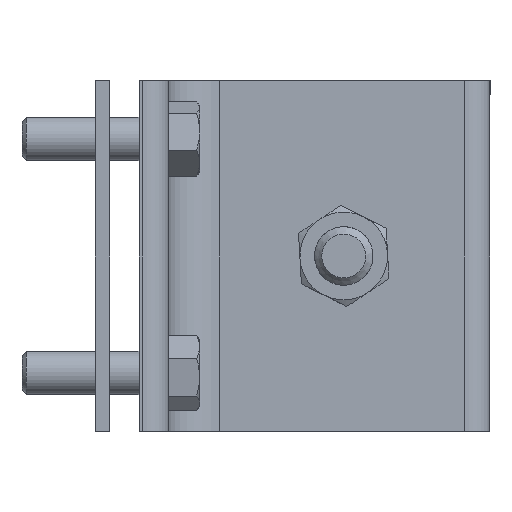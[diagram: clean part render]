
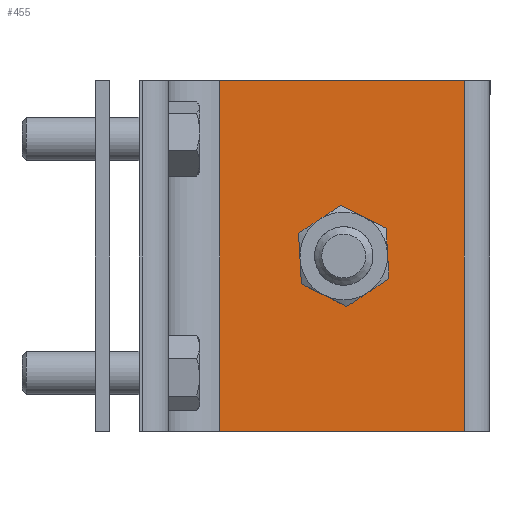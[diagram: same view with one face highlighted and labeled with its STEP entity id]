
A CAD part, front view. The second image highlights one B-rep face of the part: STEP entity #455.
In plain terms, the highlighted planar face has unit normal (0, -1, 0) as drawn and (0, 1, 0) by its records, which use the part's own axes.
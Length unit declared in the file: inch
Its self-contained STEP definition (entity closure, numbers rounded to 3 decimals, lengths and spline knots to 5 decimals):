
#281=CARTESIAN_POINT('',(1.46875,0.25,1.5));
#282=VERTEX_POINT('',#281);
#283=CARTESIAN_POINT('',(1.75,0.25,1.5));
#284=DIRECTION('',(0.0,-1.0,0.0));
#285=DIRECTION('',(1.0,0.0,0.0));
#286=AXIS2_PLACEMENT_3D('',#283,#284,#285);
#287=CIRCLE('',#286,0.28125);
#288=EDGE_CURVE('',#282,#282,#287,.T.);
#394=CARTESIAN_POINT('',(0.69,0.25,3.0));
#395=VERTEX_POINT('',#394);
#403=CARTESIAN_POINT('',(0.69,0.25,0.0));
#404=VERTEX_POINT('',#403);
#405=CARTESIAN_POINT('',(0.69,0.25,0.0));
#406=DIRECTION('',(0.0,0.0,1.0));
#407=VECTOR('',#406,3.0);
#408=LINE('',#405,#407);
#409=EDGE_CURVE('',#404,#395,#408,.T.);
#422=CARTESIAN_POINT('',(0.69,0.25,0.0));
#423=DIRECTION('',(0.0,1.0,0.0));
#424=DIRECTION('',(0.0,0.0,1.0));
#425=AXIS2_PLACEMENT_3D('',#422,#423,#424);
#426=PLANE('',#425);
#427=CARTESIAN_POINT('',(2.78,0.25,3.0));
#428=VERTEX_POINT('',#427);
#429=CARTESIAN_POINT('',(0.69,0.25,3.0));
#430=DIRECTION('',(1.0,0.0,0.0));
#431=VECTOR('',#430,2.09);
#432=LINE('',#429,#431);
#433=EDGE_CURVE('',#395,#428,#432,.T.);
#434=ORIENTED_EDGE('',*,*,#433,.T.);
#435=CARTESIAN_POINT('',(2.78,0.25,0.0));
#436=VERTEX_POINT('',#435);
#437=CARTESIAN_POINT('',(2.78,0.25,0.0));
#438=DIRECTION('',(0.0,0.0,1.0));
#439=VECTOR('',#438,3.0);
#440=LINE('',#437,#439);
#441=EDGE_CURVE('',#436,#428,#440,.T.);
#442=ORIENTED_EDGE('',*,*,#441,.F.);
#443=CARTESIAN_POINT('',(0.69,0.25,0.0));
#444=DIRECTION('',(1.0,0.0,0.0));
#445=VECTOR('',#444,2.09);
#446=LINE('',#443,#445);
#447=EDGE_CURVE('',#404,#436,#446,.T.);
#448=ORIENTED_EDGE('',*,*,#447,.F.);
#449=ORIENTED_EDGE('',*,*,#409,.T.);
#450=EDGE_LOOP('',(#434,#442,#448,#449));
#451=FACE_OUTER_BOUND('',#450,.T.);
#452=ORIENTED_EDGE('',*,*,#288,.T.);
#453=EDGE_LOOP('',(#452));
#454=FACE_BOUND('',#453,.T.);
#455=ADVANCED_FACE('',(#451,#454),#426,.T.);
